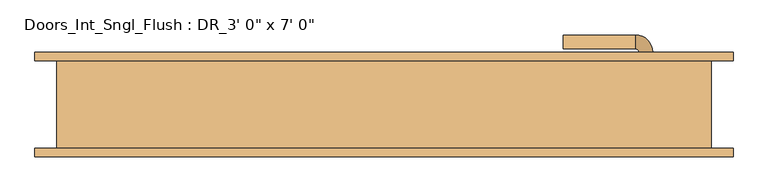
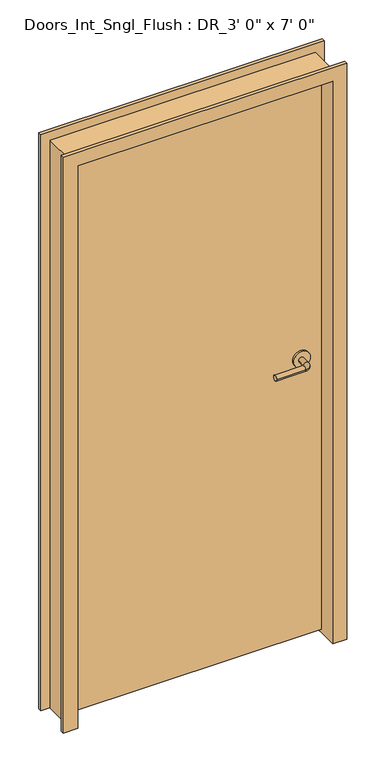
"""IFC4 building model written with IfcOpenShell, lengths in millimetres: door geometry."""

import ifcopenshell
import ifcopenshell.guid

model = None  # the IFC model being written
_history = None  # IfcOwnerHistory: only IFC2X3 demands one
_inside = {}  # id of a spatial element -> (the spatial element, [elements in it])
_under = {}  # id of a project, library or spatial element -> (it, [spatial elements below it])
_declared = {}  # id of a project -> (the project, [libraries it declares])
_typed = {}  # id of a type object -> (the type object, [elements of that type])
_made_of = {}  # id of a material, layer set ... -> (it, [elements and type objects made of it])


def new_model(schema):
    """Start an empty IFC model of exactly this schema.

    Asked for "IFC4X3", IfcOpenShell would pick the latest addendum, in which some entities
    have other attributes; the version numbers below select the first issue.
    IFC2X3 requires an IfcOwnerHistory on every rooted entity: one is made here for all.
    """
    global model, _history
    if schema == "IFC4X3":
        model = ifcopenshell.file(schema_version=(4, 3, 0, 0))
    else:
        model = ifcopenshell.file(schema=schema)
    _inside.clear()
    _under.clear()
    _declared.clear()
    _typed.clear()
    _made_of.clear()
    _history = None
    if model.schema == "IFC2X3":
        org = make("IfcOrganization", Name="unknown")
        user = make(
            "IfcPersonAndOrganization",
            ThePerson=make("IfcPerson", FamilyName="unknown"),
            TheOrganization=org,
        )
        app = make(
            "IfcApplication",
            ApplicationDeveloper=org,
            Version="unknown",
            ApplicationFullName="unknown",
            ApplicationIdentifier="unknown",
        )
        _history = make(
            "IfcOwnerHistory",
            OwningUser=user,
            OwningApplication=app,
            ChangeAction="ADDED",
            CreationDate=0,
        )
    return model


def make(cls, **values):
    """One entity of the class cls with the attributes given. An attribute that is None is left unset."""
    return model.create_entity(
        cls, **{name: value for name, value in values.items() if value is not None}
    )


def rooted(cls, **values):
    """An entity with a GlobalId (a new one), such as an element, a storey or a relation."""
    return make(cls, GlobalId=ifcopenshell.guid.new(), OwnerHistory=_history, **values)


def si_unit(unit_type, name, prefix=None):
    """IfcSIUnit, for example si_unit("LENGTHUNIT", "METRE", prefix="MILLI")."""
    return make("IfcSIUnit", UnitType=unit_type, Prefix=prefix, Name=name)


def assignment(units):
    """IfcUnitAssignment: the units of a project."""
    return None if units is None else make("IfcUnitAssignment", Units=units)


def point(xyz):
    """IfcCartesianPoint."""
    return None if xyz is None else make("IfcCartesianPoint", Coordinates=xyz)


def direction(xyz):
    """IfcDirection."""
    return None if xyz is None else make("IfcDirection", DirectionRatios=xyz)


def frame(location, z_axis=None, x_axis=None):
    """IfcAxis2Placement3D, a coordinate frame: its origin and axes. An axis left out is left unset."""
    return make(
        "IfcAxis2Placement3D",
        Location=point(location),
        Axis=direction(z_axis),
        RefDirection=direction(x_axis),
    )


def frame_2d(location, x_axis=None):
    """IfcAxis2Placement2D, a coordinate frame in the plane: its origin and x axis."""
    return make(
        "IfcAxis2Placement2D", Location=point(location), RefDirection=direction(x_axis)
    )


def origin():
    """The frame at (0, 0, 0) with its axes left unset."""
    return frame((0.0, 0.0, 0.0))


def place(relative_to, where):
    """IfcLocalPlacement: puts the frame where relative to a parent placement (None: the world)."""
    return make(
        "IfcLocalPlacement", PlacementRelTo=relative_to, RelativePlacement=where
    )


def context(
    kind, dimensions, precision=None, world=None, true_north=None, identifier=None
):
    """IfcGeometricRepresentationContext, for example the 3D "Model" context."""
    return make(
        "IfcGeometricRepresentationContext",
        ContextIdentifier=identifier,
        ContextType=kind,
        CoordinateSpaceDimension=dimensions,
        Precision=precision,
        WorldCoordinateSystem=world,
        TrueNorth=true_north,
    )


def project(units=None, contexts=None):
    """IfcProject with its units and contexts."""
    return rooted(
        "IfcProject",
        Name="project",
        RepresentationContexts=contexts,
        UnitsInContext=assignment(units),
    )


def spatial(cls, under=None, at=None, **own):
    """A site, building, storey or space (cls), placed at a placement, below another one or the project."""
    s = rooted(cls, ObjectPlacement=at, **own)
    if under is not None:
        _under.setdefault(under.id(), (under, []))[1].append(s)
    return s


def polyline(points):
    """IfcPolyline through the points."""
    return make("IfcPolyline", Points=[point(p) for p in points])


def circle_curve(where, radius):
    """IfcCircle in the frame where."""
    return make("IfcCircle", Position=where, Radius=radius)


def ellipse_curve(where, semi_axis1, semi_axis2):
    """IfcEllipse in the frame where."""
    return make(
        "IfcEllipse", Position=where, SemiAxis1=semi_axis1, SemiAxis2=semi_axis2
    )


def trimmed(basis, trim1, trim2, sense, master):
    """IfcTrimmedCurve: the piece of a basis curve between two trims."""
    return make(
        "IfcTrimmedCurve",
        BasisCurve=basis,
        Trim1=trim1,
        Trim2=trim2,
        SenseAgreement=sense,
        MasterRepresentation=master,
    )


def segment(curve, same_sense, transition):
    """IfcCompositeCurveSegment."""
    return make(
        "IfcCompositeCurveSegment",
        Transition=transition,
        SameSense=same_sense,
        ParentCurve=curve,
    )


def composite_curve(segments, self_intersect=None):
    """IfcCompositeCurve: segments joined end to end."""
    return make("IfcCompositeCurve", Segments=segments, SelfIntersect=self_intersect)


def outline(outer, holes=None, kind="AREA"):
    """IfcArbitraryClosedProfileDef: a profile drawn as a closed curve; with holes, ...WithVoids."""
    if holes is None:
        return make("IfcArbitraryClosedProfileDef", ProfileType=kind, OuterCurve=outer)
    return make(
        "IfcArbitraryProfileDefWithVoids",
        ProfileType=kind,
        OuterCurve=outer,
        InnerCurves=holes,
    )


def extrude(swept, where, along, depth):
    """IfcExtrudedAreaSolid: the profile swept, set in the frame where, extruded along a direction by depth."""
    return make(
        "IfcExtrudedAreaSolid",
        SweptArea=swept,
        Position=where,
        ExtrudedDirection=direction(along),
        Depth=depth,
    )


def faces_of(points, faces, orient=None, outer=None):
    """IfcFace entities. A face is a list of loops; a loop is a list of indices into points, from 0.

    orient and outer hold one flag for each loop. By default every Orientation is true, the
    first loop of a face is its IfcFaceOuterBound and the others are IfcFaceBound.
    """
    made = []
    for i, loops in enumerate(faces):
        bounds = []
        for j, loop in enumerate(loops):
            is_outer = j == 0 if outer is None else outer[i][j]
            bounds.append(
                make(
                    "IfcFaceOuterBound" if is_outer else "IfcFaceBound",
                    Bound=make("IfcPolyLoop", Polygon=[points[k] for k in loop]),
                    Orientation=True if orient is None else orient[i][j],
                )
            )
        made.append(make("IfcFace", Bounds=bounds))
    return made


def faceted_brep(points, faces, orient=None, outer=None, voids=None):
    """IfcFacetedBrep: a solid bounded by flat faces; with voids (closed shells), ...WithVoids."""
    shared = [point(p) for p in points]
    hull = make("IfcClosedShell", CfsFaces=faces_of(shared, faces, orient, outer))
    if voids is None:
        return make("IfcFacetedBrep", Outer=hull)
    return make(
        "IfcFacetedBrepWithVoids",
        Outer=hull,
        Voids=[
            make(cls, CfsFaces=faces_of(shared, fs, o, b)) for cls, fs, o, b in voids
        ],
    )


def shape(context_of_items, identifier, shape_type, items):
    """IfcShapeRepresentation: the items that make up one representation, for example the "Body"."""
    return make(
        "IfcShapeRepresentation",
        ContextOfItems=context_of_items,
        RepresentationIdentifier=identifier,
        RepresentationType=shape_type,
        Items=items,
    )


def source(mapping_origin, context_of_items, identifier, shape_type, items):
    """IfcRepresentationMap: a shape defined once, which mapped items show again and again."""
    return make(
        "IfcRepresentationMap",
        MappingOrigin=mapping_origin,
        MappedRepresentation=shape(context_of_items, identifier, shape_type, items),
    )


def transform(
    local_origin,
    x_axis=None,
    y_axis=None,
    z_axis=None,
    scale=None,
    scale2=None,
    scale3=None,
    uniform=True,
):
    """IfcCartesianTransformationOperator3D, or its non-uniform kind. x_axis, y_axis, z_axis: its Axis1, 2, 3."""
    if uniform:
        return make(
            "IfcCartesianTransformationOperator3D",
            Axis1=direction(x_axis),
            Axis2=direction(y_axis),
            LocalOrigin=point(local_origin),
            Scale=scale,
            Axis3=direction(z_axis),
        )
    return make(
        "IfcCartesianTransformationOperator3DnonUniform",
        Axis1=direction(x_axis),
        Axis2=direction(y_axis),
        LocalOrigin=point(local_origin),
        Scale=scale,
        Axis3=direction(z_axis),
        Scale2=scale2,
        Scale3=scale3,
    )


def mapped(mapping_source, mapping_target):
    """IfcMappedItem: shows the shape of a source again, moved by a transform."""
    return make(
        "IfcMappedItem", MappingSource=mapping_source, MappingTarget=mapping_target
    )


def made_of(thing, what):
    """Note that an element or type object is made of a material, layer set ...; save() writes the relation."""
    if what is not None:
        _made_of.setdefault(what.id(), (what, []))[1].append(thing)
    return thing


def element(
    cls,
    number,
    at=None,
    inside=None,
    cuts=None,
    type_object=None,
    material=None,
    context=None,
    identifier="Body",
    shape_type=None,
    held_by="IfcProductDefinitionShape",
    body=None,
    shapes=None,
    **own,
):
    """One element of the class cls, such as IfcWall. Its Tag is "e" and its number.

    at: its placement. inside: the storey or other place that contains it. cuts: it is an
    opening in that element (IfcRelVoidsElement). A single representation is given by context,
    identifier, shape_type and body (its items); several are given by shapes. held_by: the class
    of the entity that holds the representations. save() writes the other relations.
    """
    e = rooted(cls, Tag="e%d" % number, ObjectPlacement=at, **own)
    if body is not None:
        shapes = [shape(context, identifier, shape_type, body)]
    if shapes is not None:
        e.Representation = make(held_by, Representations=shapes)
    if inside is not None:
        _inside.setdefault(inside.id(), (inside, []))[1].append(e)
    if cuts is not None:
        rooted(
            "IfcRelVoidsElement", RelatingBuildingElement=cuts, RelatedOpeningElement=e
        )
    if type_object is not None:
        _typed.setdefault(type_object.id(), (type_object, []))[1].append(e)
    return made_of(e, material)


def aggregate(whole, parts):
    """IfcRelAggregates: a whole, such as a stair, and the parts it consists of."""
    return rooted("IfcRelAggregates", RelatingObject=whole, RelatedObjects=parts)


def save(model, path):
    """Write the relations noted so far, then the file.

    IfcRelAggregates (storeys below a building ...), IfcRelContainedInSpatialStructure (elements
    in a storey), IfcRelDefinesByType, IfcRelAssociatesMaterial and IfcRelDeclares: one each for
    every whole, place, type object, material and project.
    """
    for whole, parts in _under.values():
        aggregate(whole, parts)
    for where, things in _inside.values():
        rooted(
            "IfcRelContainedInSpatialStructure",
            RelatedElements=things,
            RelatingStructure=where,
        )
    for kind, things in _typed.values():
        rooted("IfcRelDefinesByType", RelatedObjects=things, RelatingType=kind)
    for what, things in _made_of.values():
        rooted("IfcRelAssociatesMaterial", RelatedObjects=things, RelatingMaterial=what)
    for by, libraries in _declared.values():
        rooted("IfcRelDeclares", RelatingContext=by, RelatedDefinitions=libraries)
    model.write(path)


def plane_surface(at):
    """IfcPlane: the flat surface through the origin of the frame at, square to its z axis."""
    return make("IfcPlane", Position=at)


def cylinder_surface(at, radius):
    """IfcCylindricalSurface: all points at the distance radius from the z axis of the frame at."""
    return make("IfcCylindricalSurface", Position=at, Radius=radius)


def revolved_surface(curve, axis_point, axis_direction):
    """IfcSurfaceOfRevolution: the curve turned about the line through axis_point along axis_direction."""
    return make(
        "IfcSurfaceOfRevolution",
        SweptCurve=make("IfcArbitraryOpenProfileDef", ProfileType="CURVE", Curve=curve),
        AxisPosition=make("IfcAxis1Placement", Location=point(axis_point), Axis=direction(axis_direction)),
    )


def advanced_brep(points, edges, surfaces, faces):
    """IfcAdvancedBrep: a solid bounded by faces that lie on surfaces and meet in shared edges.

    An edge is (start, end): straight between two places in points (the first is 0);
    or (start, end, curve); or (start, end, curve, False) where it runs against its curve.
    A face is (place in surfaces, loops), or (place, loops, False) where it looks against
    its surface's normal. A loop lists edges by number (the first is 1), with a minus sign
    where the edge is run from its end to its start. The first loop is the outer one.
    """
    corners = [point(p) for p in points]
    vertices = [make("IfcVertexPoint", VertexGeometry=c) for c in corners]
    made = []
    for start, end, *more in edges:
        made.append(
            make(
                "IfcEdgeCurve",
                EdgeStart=vertices[start],
                EdgeEnd=vertices[end],
                EdgeGeometry=more[0] if more else make("IfcPolyline", Points=[corners[start], corners[end]]),
                SameSense=more[1] if len(more) > 1 else True,
            )
        )
    hull = []
    for where, loops, *sense in faces:
        bounds = []
        for j, loop in enumerate(loops):
            ring = [make("IfcOrientedEdge", EdgeElement=made[abs(k) - 1], Orientation=k > 0) for k in loop]
            bounds.append(
                make(
                    "IfcFaceOuterBound" if j == 0 else "IfcFaceBound",
                    Bound=make("IfcEdgeLoop", EdgeList=ring),
                    Orientation=True,
                )
            )
        hull.append(make("IfcAdvancedFace", Bounds=bounds, FaceSurface=surfaces[where], SameSense=sense[0] if sense else True))
    return make("IfcAdvancedBrep", Outer=make("IfcClosedShell", CfsFaces=hull))


def door_8d4fd996(model_context):
    return source(origin(), model_context, "Body", "SolidModel", [
        advanced_brep(
        [(391.0, 46.1, 1066.8), (371.0, 46.1, 1066.8), (371.0, 76.1, 1066.8), (391.0, 76.1, 1066.8), (366.0, 81.1, 1066.8), (366.0, 101.1, 1066.8), (261.0, 101.1, 1066.8), (261.0, 81.1, 1066.8)],
        [
            (0, 1, circle_curve(frame((381.0, 46.1, 1066.8), z_axis=(0.0, -1.0, 0.0), x_axis=(-1.0, 0.0, 0.0)), 10.0)),
            (1, 0, circle_curve(frame((381.0, 46.1, 1066.8), z_axis=(0.0, -1.0, 0.0), x_axis=(-1.0, 0.0, 0.0)), 10.0)),
            (1, 2),
            (2, 3, circle_curve(frame((381.0, 76.1, 1066.8), z_axis=(0.0, -1.0, 0.0), x_axis=(-1.0, 0.0, 0.0)), 10.0)),
            (3, 0),
            (3, 2, circle_curve(frame((381.0, 76.1, 1066.8), z_axis=(0.0, -1.0, 0.0), x_axis=(-1.0, 0.0, 0.0)), 10.0)),
            (4, 5, circle_curve(frame((366.0, 91.1, 1066.8), z_axis=(1.0, 0.0, 0.0), x_axis=(0.0, -1.0, 0.0)), 10.0)),
            (5, 3, circle_curve(frame((366.0, 76.1, 1066.8), z_axis=(0.0, 0.0, -1.0), x_axis=(1.0, 0.0, 0.0)), 25.0)),
            (2, 4, circle_curve(frame((366.0, 76.1, 1066.8), z_axis=(0.0, 0.0, 1.0), x_axis=(1.0, 0.0, 0.0)), 5.0)),
            (5, 4, circle_curve(frame((366.0, 91.1, 1066.8), z_axis=(1.0, 0.0, 0.0), x_axis=(0.0, -1.0, 0.0)), 10.0)),
            (6, 7, circle_curve(frame((261.0, 91.1, 1066.8), z_axis=(-1.0, 0.0, 0.0), x_axis=(0.0, -1.0, 0.0)), 10.0)),
            (7, 6, circle_curve(frame((261.0, 91.1, 1066.8), z_axis=(-1.0, 0.0, 0.0), x_axis=(0.0, -1.0, 0.0)), 10.0)),
            (4, 7),
            (6, 5),
        ],
        [
            plane_surface(frame((381.0, 46.1, 1066.8), z_axis=(0.0, -1.0, 0.0), x_axis=(0.0, 0.0, 1.0))),
            cylinder_surface(frame((381.0, 46.1, 1066.8), z_axis=(0.0, -1.0, 0.0), x_axis=(-1.0, 0.0, 0.0)), 10.0),
            revolved_surface(trimmed(ellipse_curve(frame((381.0, 76.1, 1066.8), z_axis=(0.0, 1.0, 0.0), x_axis=(-1.0, 0.0, 0.0)), 10.0, 10.0), [point((391.0, 76.1, 1066.8))], [point((371.0, 76.1, 1066.8))], True, "CARTESIAN"), (366.0, 76.1, 1066.8), (0.0, 0.0, -1.0)),
            revolved_surface(trimmed(ellipse_curve(frame((381.0, 76.1, 1066.8), z_axis=(0.0, 1.0, 0.0), x_axis=(-1.0, 0.0, 0.0)), 10.0, 10.0), [point((371.0, 76.1, 1066.8))], [point((391.0, 76.1, 1066.8))], True, "CARTESIAN"), (366.0, 76.1, 1066.8), (0.0, 0.0, -1.0)),
            plane_surface(frame((261.0, 91.1, 1066.8), z_axis=(-1.0, 0.0, 0.0), x_axis=(0.0, 0.0, 1.0))),
            cylinder_surface(frame((366.0, 91.1, 1066.8), z_axis=(1.0, 0.0, 0.0), x_axis=(0.0, -1.0, 0.0)), 10.0),
        ],
        [
            (0, [[1, 2]]),
            (1, [[3, 4, 5, -2]]),
            (1, [[-5, 6, -3, -1]]),
            (2, [[7, 8, -4, 9]]),
            (3, [[10, -9, -6, -8]]),
            (4, [[11, 12]]),
            (5, [[13, -11, 14, -7]]),
            (5, [[-14, -12, -13, -10]]),
        ],
    ),
        extrude(outline(composite_curve([segment(trimmed(circle_curve(frame_2d((1066.8, 383.5)), 30.0), [point((1066.8, 413.5))], [point((1066.8, 353.5))], False, "CARTESIAN"), True, "CONTINUOUS"), segment(trimmed(circle_curve(frame_2d((1066.8, 383.5)), 30.0), [point((1066.8, 353.5))], [point((1066.8, 413.5))], False, "CARTESIAN"), True, "CONTINUOUS")], self_intersect=False)), frame((0.0, 38.1, 0.0), z_axis=(0.0, 1.0, 0.0), x_axis=(0.0, 0.0, 1.0)), (0.0, 0.0, 1.0), 8.0),
        advanced_brep(
        [(391.0, -14.35, 1066.8), (371.0, -14.35, 1066.8), (391.0, -44.35, 1066.8), (371.0, -44.35, 1066.8), (366.0, -49.35, 1066.8), (366.0, -69.35, 1066.8), (261.0, -69.35, 1066.8), (261.0, -49.35, 1066.8)],
        [
            (0, 1, circle_curve(frame((381.0, -14.35, 1066.8), z_axis=(0.0, 1.0, 0.0), x_axis=(-1.0, 0.0, 0.0)), 10.0)),
            (1, 0, circle_curve(frame((381.0, -14.35, 1066.8), z_axis=(0.0, 1.0, 0.0), x_axis=(-1.0, 0.0, 0.0)), 10.0)),
            (0, 2),
            (2, 3, circle_curve(frame((381.0, -44.35, 1066.8), z_axis=(0.0, 1.0, 0.0), x_axis=(-1.0, 0.0, 0.0)), 10.0)),
            (3, 1),
            (3, 2, circle_curve(frame((381.0, -44.35, 1066.8), z_axis=(0.0, 1.0, 0.0), x_axis=(-1.0, 0.0, 0.0)), 10.0)),
            (4, 3, circle_curve(frame((366.0, -44.35, 1066.8), z_axis=(0.0, 0.0, 1.0), x_axis=(1.0, 0.0, 0.0)), 5.0)),
            (2, 5, circle_curve(frame((366.0, -44.35, 1066.8), z_axis=(0.0, 0.0, -1.0), x_axis=(1.0, 0.0, 0.0)), 25.0)),
            (5, 4, circle_curve(frame((366.0, -59.35, 1066.8), z_axis=(1.0, 0.0, 0.0), x_axis=(0.0, 1.0, 0.0)), 10.0)),
            (4, 5, circle_curve(frame((366.0, -59.35, 1066.8), z_axis=(1.0, 0.0, 0.0), x_axis=(0.0, 1.0, 0.0)), 10.0)),
            (6, 7, circle_curve(frame((261.0, -59.35, 1066.8), z_axis=(-1.0, 0.0, 0.0), x_axis=(0.0, 1.0, 0.0)), 10.0)),
            (7, 6, circle_curve(frame((261.0, -59.35, 1066.8), z_axis=(-1.0, 0.0, 0.0), x_axis=(0.0, 1.0, 0.0)), 10.0)),
            (5, 6),
            (7, 4),
        ],
        [
            plane_surface(frame((381.0, -14.35, 1066.8), z_axis=(0.0, 1.0, 0.0), x_axis=(0.0, 0.0, 1.0))),
            cylinder_surface(frame((381.0, -14.35, 1066.8), z_axis=(0.0, 1.0, 0.0), x_axis=(-1.0, 0.0, 0.0)), 10.0),
            revolved_surface(trimmed(ellipse_curve(frame((381.0, -44.35, 1066.8), z_axis=(0.0, 1.0, 0.0), x_axis=(-1.0, 0.0, 0.0)), 10.0, 10.0), [point((391.0, -44.35, 1066.8))], [point((371.0, -44.35, 1066.8))], True, "CARTESIAN"), (366.0, -44.35, 1066.8), (0.0, 0.0, -1.0)),
            revolved_surface(trimmed(ellipse_curve(frame((381.0, -44.35, 1066.8), z_axis=(0.0, 1.0, 0.0), x_axis=(-1.0, 0.0, 0.0)), 10.0, 10.0), [point((371.0, -44.35, 1066.8))], [point((391.0, -44.35, 1066.8))], True, "CARTESIAN"), (366.0, -44.35, 1066.8), (0.0, 0.0, -1.0)),
            plane_surface(frame((261.0, -59.35, 1066.8), z_axis=(-1.0, 0.0, 0.0), x_axis=(0.0, 0.0, 1.0))),
            cylinder_surface(frame((366.0, -59.35, 1066.8), z_axis=(1.0, 0.0, 0.0), x_axis=(0.0, 1.0, 0.0)), 10.0),
        ],
        [
            (0, [[1, 2]]),
            (1, [[-1, 3, 4, 5]]),
            (1, [[-2, -5, 6, -3]]),
            (2, [[7, -4, 8, 9]]),
            (3, [[-8, -6, -7, 10]]),
            (4, [[11, 12]]),
            (5, [[-9, 13, -12, 14]]),
            (5, [[-10, -14, -11, -13]]),
        ],
    ),
        extrude(outline(composite_curve([segment(trimmed(circle_curve(frame_2d((1066.8, 383.5)), 30.0), [point((1066.8, 413.5))], [point((1066.8, 353.5))], False, "CARTESIAN"), True, "CONTINUOUS"), segment(trimmed(circle_curve(frame_2d((1066.8, 383.5)), 30.0), [point((1066.8, 353.5))], [point((1066.8, 413.5))], False, "CARTESIAN"), True, "CONTINUOUS")], self_intersect=False)), frame((0.0, -14.35, 0.0), z_axis=(0.0, 1.0, 0.0), x_axis=(0.0, 0.0, 1.0)), (0.0, 0.0, 1.0), 8.0),
        extrude(outline(polyline([(-457.2, 38.1), (457.2, 38.1), (457.2, -6.35), (-457.2, -6.35), (-457.2, 38.1)])), frame((0.0, 0.0, 12.7), z_axis=(0.0, 0.0, 1.0), x_axis=(1.0, 0.0, 0.0)), (0.0, 0.0, 1.0), 2120.9),
        faceted_brep([(-457.2, -76.2, 0.0), (-508.0, -76.2, 0.0), (-508.0, -63.5, 0.0), (-476.25, -63.5, 0.0), (-476.25, 63.5, 0.0), (-508.0, 63.5, 0.0), (-508.0, 76.2, 0.0), (-457.2, 76.2, 0.0), (-457.2, -76.2, 2133.6), (457.2, -76.2, 2133.6), (457.2, -76.2, 0.0), (508.0, -76.2, 0.0), (508.0, -76.2, 2184.4), (-508.0, -76.2, 2184.4), (-508.0, -63.5, 2184.4), (508.0, -63.5, 2184.4), (508.0, -63.5, 0.0), (476.25, -63.5, 0.0), (476.25, -63.5, 2152.65), (-476.25, -63.5, 2152.65), (-476.25, 63.5, 2152.65), (476.25, 63.5, 2152.65), (476.25, 63.5, 0.0), (508.0, 63.5, 0.0), (508.0, 63.5, 2184.4), (-508.0, 63.5, 2184.4), (-508.0, 76.2, 2184.4), (508.0, 76.2, 2184.4), (508.0, 76.2, 0.0), (457.2, 76.2, 0.0), (457.2, 76.2, 2133.6), (-457.2, 76.2, 2133.6)], [[[0, 1, 2, 3, 4, 5, 6, 7]], [[1, 0, 8, 9, 10, 11, 12, 13]], [[2, 1, 13, 14]], [[3, 2, 14, 15, 16, 17, 18, 19]], [[4, 3, 19, 20]], [[5, 4, 20, 21, 22, 23, 24, 25]], [[6, 5, 25, 26]], [[7, 6, 26, 27, 28, 29, 30, 31]], [[0, 7, 31, 8]], [[9, 30, 29, 10]], [[10, 29, 28, 23, 22, 17, 16, 11]], [[15, 12, 11, 16]], [[27, 24, 23, 28]], [[21, 18, 17, 22]], [[20, 19, 18, 21]], [[8, 31, 30, 9]], [[14, 13, 12, 15]], [[26, 25, 24, 27]]]),
    ])


if __name__ == "__main__":
    model = new_model("IFC4")
    model_context = context("Model", 3, world=origin())
    ifc_project = project(units=[si_unit("LENGTHUNIT", "METRE", prefix="MILLI")], contexts=[model_context])
    site = spatial("IfcSite", under=ifc_project)
    building = spatial("IfcBuilding", under=site)
    placement = place(None, origin())
    door_shape = door_8d4fd996(model_context)
    element("IfcDoor", 1, ObjectType="Doors_Int_Sngl_Flush : DR_3' 0\" x 7' 0\"", at=placement, inside=building, context=model_context, shape_type="MappedRepresentation", body=[
        mapped(door_shape, transform((0.0, 0.0, 0.0), x_axis=(1.0, 0.0, 0.0), y_axis=(0.0, 1.0, 0.0), z_axis=(0.0, 0.0, 1.0))),
    ])
    save(model, "model.ifc")
